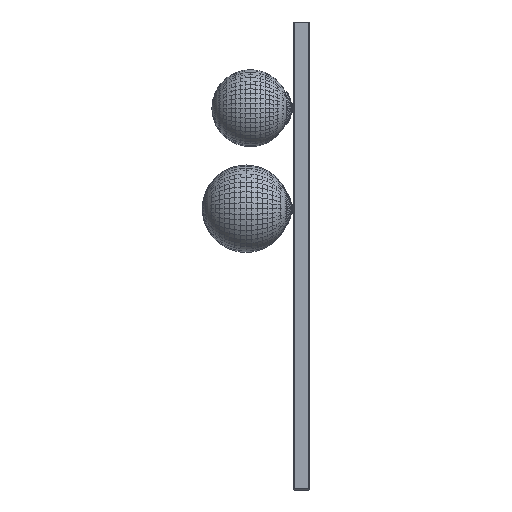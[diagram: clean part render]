
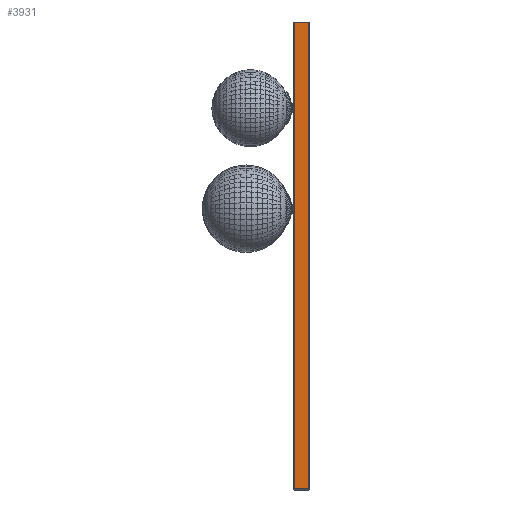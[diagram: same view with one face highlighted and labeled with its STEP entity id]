
A CAD part, top view. The second image highlights one B-rep face of the part: STEP entity #3931.
In plain terms, the highlighted planar face has unit normal (0, 0, 1).
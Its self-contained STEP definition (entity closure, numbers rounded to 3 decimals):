
#3931=ADVANCED_FACE('',(#9133),#64965,.T.);
#9133=FACE_OUTER_BOUND('',#14335,.T.);
#14335=EDGE_LOOP('',(#27077,#27078,#27079,#27080));
#27077=ORIENTED_EDGE('',*,*,#42441,.T.);
#27078=ORIENTED_EDGE('',*,*,#42443,.T.);
#27079=ORIENTED_EDGE('',*,*,#42445,.T.);
#27080=ORIENTED_EDGE('',*,*,#42442,.F.);
#42441=EDGE_CURVE('',#60452,#60453,#52749,.T.);
#42442=EDGE_CURVE('',#60452,#60455,#52750,.T.);
#42443=EDGE_CURVE('',#60453,#60454,#52751,.T.);
#42445=EDGE_CURVE('',#60454,#60455,#52753,.T.);
#52749=B_SPLINE_CURVE_WITH_KNOTS('',1,(#92390,#92391),.UNSPECIFIED.,.F.,
 .F.,(2,2),(0.,1.),.UNSPECIFIED.);
#52750=B_SPLINE_CURVE_WITH_KNOTS('',1,(#92392,#92393),.UNSPECIFIED.,.F.,
 .F.,(2,2),(0.,1.),.UNSPECIFIED.);
#52751=B_SPLINE_CURVE_WITH_KNOTS('',1,(#92394,#92395),.UNSPECIFIED.,.F.,
 .F.,(2,2),(0.,1.),.UNSPECIFIED.);
#52753=B_SPLINE_CURVE_WITH_KNOTS('',1,(#92398,#92399),.UNSPECIFIED.,.F.,
 .F.,(2,2),(0.,1.),.UNSPECIFIED.);
#60452=VERTEX_POINT('',#92306);
#60453=VERTEX_POINT('',#92307);
#60454=VERTEX_POINT('',#92308);
#60455=VERTEX_POINT('',#92309);
#64965=PLANE('',#68962);
#68962=AXIS2_PLACEMENT_3D('',#92268,#72943,$);
#72943=DIRECTION('',(0.,0.,1.));
#92268=CARTESIAN_POINT('',(1.32,36.076,1.685));
#92306=CARTESIAN_POINT('',(1.32,36.076,1.685));
#92307=CARTESIAN_POINT('',(-1.32,36.076,1.685));
#92308=CARTESIAN_POINT('',(-1.32,-49.564,1.685));
#92309=CARTESIAN_POINT('',(1.32,-49.564,1.685));
#92390=CARTESIAN_POINT('',(1.32,36.076,1.685));
#92391=CARTESIAN_POINT('',(-1.32,36.076,1.685));
#92392=CARTESIAN_POINT('',(1.32,36.076,1.685));
#92393=CARTESIAN_POINT('',(1.32,-49.564,1.685));
#92394=CARTESIAN_POINT('',(-1.32,36.076,1.685));
#92395=CARTESIAN_POINT('',(-1.32,-49.564,1.685));
#92398=CARTESIAN_POINT('',(-1.32,-49.564,1.685));
#92399=CARTESIAN_POINT('',(1.32,-49.564,1.685));
